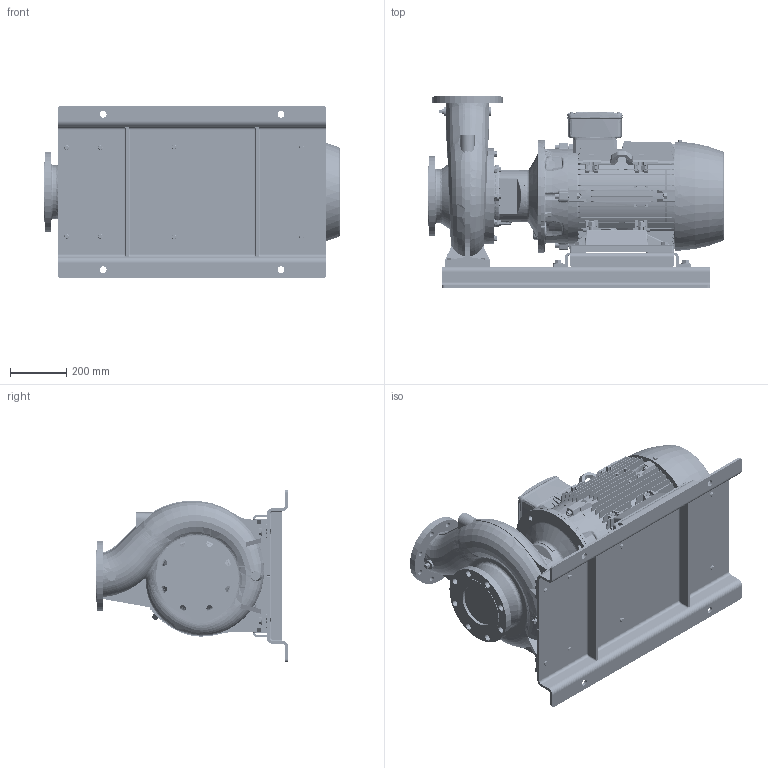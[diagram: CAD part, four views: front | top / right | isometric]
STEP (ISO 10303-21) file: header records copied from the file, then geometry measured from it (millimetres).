
FILE_DESCRIPTION (( 'STEP AP214' ), '1' );
FILE_NAME ('GSD4 125-250_30_(200ML)_W21_BP.STEP', '2026-05-08T04:17:07', ( '' ), ( '' ), 'SwSTEP 2.0', 'SolidWorks 2024', '' );
FILE_SCHEMA (( 'AUTOMOTIVE_DESIGN' ));
Length unit declared in the file: millimetre
Products named in the file (12): Parametric bolt and washer_SFT-A353B; Parametric bolt_SFT-A351B; 125-250-200M_L_ﾃﾞﾌｫﾙﾄ; Parametric bolt and washer_SFT-A359B; N7S3 GSDA-737 F1-1832950-00; Parametric bolt and washer_SFT-A351B; 200M_L ALIE3_W21T_B35; Parametric Flat Washer_M16; CGS11-5272; GSD4 125-250_30_(200ML)_W21_BP; Parametric bolt_SFT-A359B; Parametric bolt_SFT-A353B
Assembly tree (23 placements, depth 3):
  GSD4 125-250_30_(200ML)_W21_BP
    125-250-200M_L_ﾃﾞﾌｫﾙﾄ
    N7S3 GSDA-737 F1-1832950-00
    CGS11-5272
    Parametric bolt and washer_SFT-A353B  x4
      Parametric bolt_SFT-A353B
      Parametric Flat Washer_M16
    Parametric bolt and washer_SFT-A351B  x4
      Parametric bolt_SFT-A351B
      Parametric Flat Washer_M16
    200M_L ALIE3_W21T_B35  x2
    Parametric bolt and washer_SFT-A359B  x4
      Parametric bolt_SFT-A359B
      Parametric Flat Washer_M16
Bounding box: 1048.8 x 680 x 610 mm (x, y, z)
Volume: 174802033.6 mm3; surface area: 9497107 mm2
Topology: 76 solids, 96 shells, 13430 faces, 34676 edges, 22255 vertices
Faces by surface type: plane 8157, cylinder 2093, bspline 1844, cone 1066, torus 266, sphere 4
Entity records: 312081 total; most frequent: CARTESIAN_POINT 148848, ORIENTED_EDGE 36376, DIRECTION 29556, EDGE_CURVE 18188, VERTEX_POINT 11710, VECTOR 11150, LINE 11150, AXIS2_PLACEMENT_3D 9203
